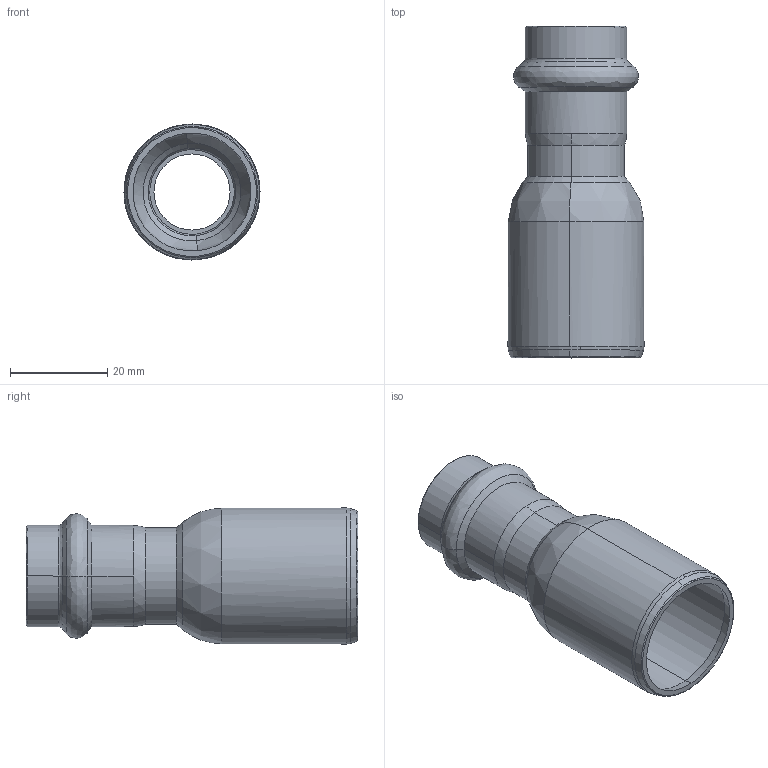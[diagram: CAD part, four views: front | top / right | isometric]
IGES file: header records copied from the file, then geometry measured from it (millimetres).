
Start section: Elysium IGES Interface
Global section: file name: C:\Users\Wallenburg\Desktop\3d modellen sudo\S-Pr VP\SP6243V\6243VW2818.igs; native system: CoCreate Modeling 17.00A  17-Jun-2010; preprocessor: CoCreate IGES_3D V2.2; author: Unknown; organization: Unknown; date: 20130124.091947; units: millimetre
Bounding box: 28 x 68.3 x 28 mm (x, y, z)
Volume: 7121.7 mm3; surface area: 10456.5 mm2
Topology: 1 solids, 1 shells, 62 faces, 136 edges, 78 vertices
Faces by surface type: bspline 62
